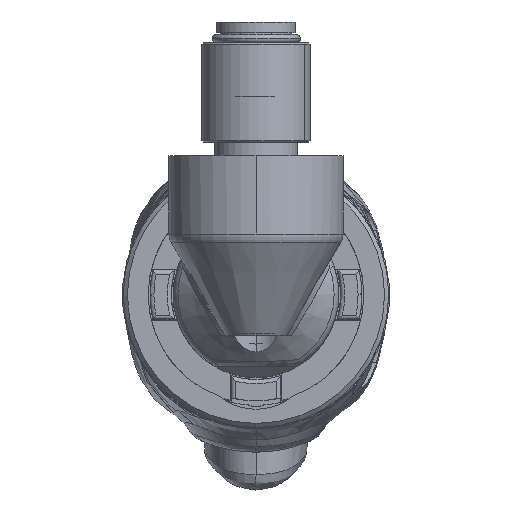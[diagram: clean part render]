
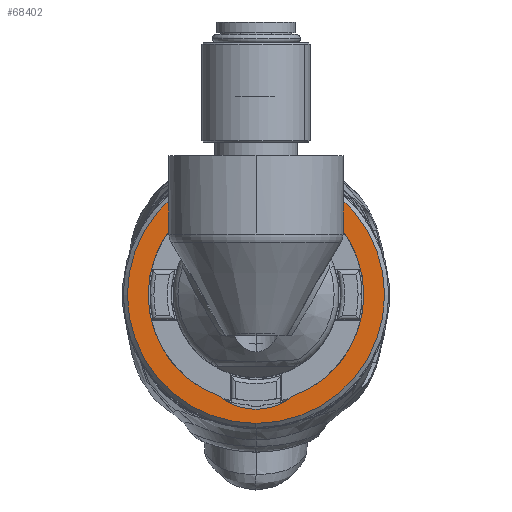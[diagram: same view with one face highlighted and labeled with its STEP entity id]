
A CAD part, top view. The second image highlights one B-rep face of the part: STEP entity #68402.
In plain terms, the highlighted planar face has unit normal (0, 0, 1).
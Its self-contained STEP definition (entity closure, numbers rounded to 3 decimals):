
#16608=CARTESIAN_POINT('',(0.,0.,-8.2));
#16609=DIRECTION('',(0.,0.,1.));
#16610=DIRECTION('',(0.,-1.,0.));
#16611=AXIS2_PLACEMENT_3D('',#16608,#16609,#16610);
#16622=CARTESIAN_POINT('',(0.,-6.8,-8.2));
#16623=DIRECTION('',(0.,0.,1.));
#16624=DIRECTION('',(-0.632,-0.775,0.));
#16625=AXIS2_PLACEMENT_3D('',#16622,#16623,#16624);
#16627=CARTESIAN_POINT('',(0.,0.,-8.2));
#16628=DIRECTION('',(0.,0.,1.));
#16629=DIRECTION('',(0.34,-0.94,0.));
#16630=AXIS2_PLACEMENT_3D('',#16627,#16628,#16629);
#16632=CARTESIAN_POINT('',(0.,0.,-8.2));
#16633=DIRECTION('',(0.,0.,1.));
#16634=DIRECTION('',(0.,1.,0.));
#16635=AXIS2_PLACEMENT_3D('',#16632,#16633,#16634);
#16637=CARTESIAN_POINT('',(0.,0.,-8.2));
#16638=DIRECTION('',(0.,0.,1.));
#16639=DIRECTION('',(0.,1.,0.));
#16640=AXIS2_PLACEMENT_3D('',#16637,#16638,#16639);
#46444=CARTESIAN_POINT('',(0.,13.,-8.2));
#46445=CARTESIAN_POINT('',(-4.426,-12.224,-8.2));
#46446=VERTEX_POINT('',#46444);
#46447=VERTEX_POINT('',#46445);
#46448=CARTESIAN_POINT('',(4.426,-12.224,-8.2));
#46449=VERTEX_POINT('',#46448);
#46450=CARTESIAN_POINT('',(0.,15.5,-8.2));
#46452=VERTEX_POINT('',#46450);
#46454=CARTESIAN_POINT('',(0.,-15.5,-8.2));
#46456=VERTEX_POINT('',#46454);
#68384=CARTESIAN_POINT('',(0.,0.,-8.2));
#68385=DIRECTION('',(0.,0.,-1.));
#68386=DIRECTION('',(0.,1.,0.));
#68387=AXIS2_PLACEMENT_3D('',#68384,#68385,#68386);
#68388=PLANE('',#68387);
#68389=ORIENTED_EDGE('',*,*,#68374,.F.);
#68391=ORIENTED_EDGE('',*,*,#68390,.F.);
#68392=EDGE_LOOP('',(#68389,#68391));
#68393=FACE_OUTER_BOUND('',#68392,.F.);
#68395=ORIENTED_EDGE('',*,*,#68394,.T.);
#68397=ORIENTED_EDGE('',*,*,#68396,.T.);
#68399=ORIENTED_EDGE('',*,*,#68398,.T.);
#68400=EDGE_LOOP('',(#68395,#68397,#68399));
#68401=FACE_BOUND('',#68400,.F.);
#68402=ADVANCED_FACE('',(#68393,#68401),#68388,.F.);
#16612=CIRCLE('',#16611,15.5);
#16626=CIRCLE('',#16625,7.);
#16631=CIRCLE('',#16630,13.);
#16636=CIRCLE('',#16635,13.);
#16641=CIRCLE('',#16640,15.5);
#68374=EDGE_CURVE('',#46456,#46452,#16612,.T.);
#68390=EDGE_CURVE('',#46452,#46456,#16641,.T.);
#68394=EDGE_CURVE('',#46447,#46449,#16626,.T.);
#68396=EDGE_CURVE('',#46449,#46446,#16631,.T.);
#68398=EDGE_CURVE('',#46446,#46447,#16636,.T.);
